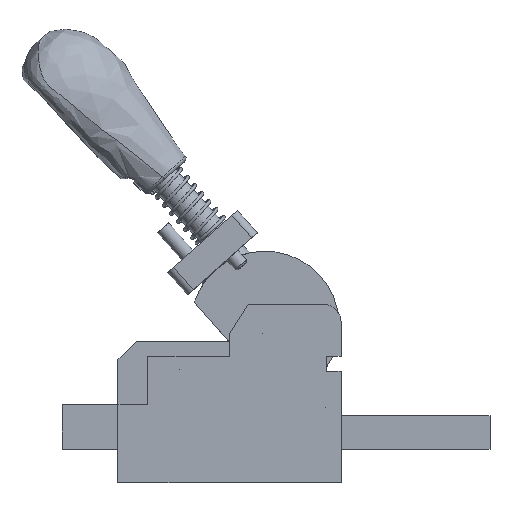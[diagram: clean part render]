
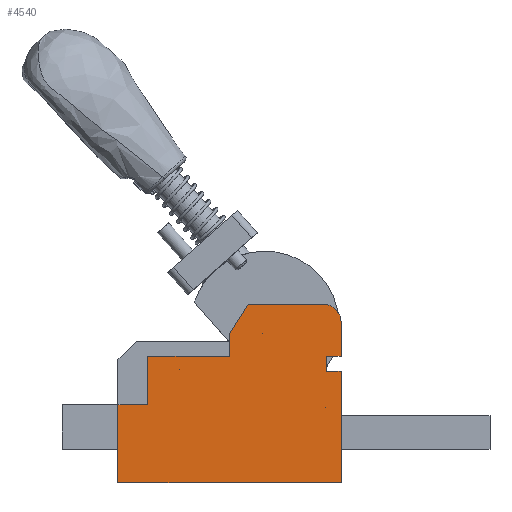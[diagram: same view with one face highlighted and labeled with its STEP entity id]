
A CAD part, top view. The second image highlights one B-rep face of the part: STEP entity #4540.
In plain terms, the highlighted planar face has unit normal (0, 0, 1).
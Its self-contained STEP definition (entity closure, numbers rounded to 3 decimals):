
#296=FACE_BOUND('',#848,.T.);
#297=FACE_BOUND('',#849,.T.);
#298=FACE_BOUND('',#850,.T.);
#378=CIRCLE('',#5027,5.);
#379=CIRCLE('',#5028,0.005);
#380=CIRCLE('',#5029,0.005);
#381=CIRCLE('',#5030,0.005);
#586=FACE_OUTER_BOUND('',#847,.T.);
#847=EDGE_LOOP('',(#3194,#3195,#3196,#3197,#3198,#3199,#3200,#3201,#3202,
#3203,#3204,#3205,#3206,#3207));
#848=EDGE_LOOP('',(#3208));
#849=EDGE_LOOP('',(#3209));
#850=EDGE_LOOP('',(#3210));
#1122=LINE('',#6743,#1512);
#1130=LINE('',#6759,#1520);
#1132=LINE('',#6764,#1522);
#1162=LINE('',#6839,#1552);
#1165=LINE('',#6844,#1555);
#1170=LINE('',#6880,#1560);
#1173=LINE('',#6885,#1563);
#1185=LINE('',#6926,#1575);
#1189=LINE('',#6934,#1579);
#1198=LINE('',#6961,#1588);
#1199=LINE('',#6963,#1589);
#1200=LINE('',#6965,#1590);
#1201=LINE('',#6966,#1591);
#1512=VECTOR('',#5432,10.);
#1520=VECTOR('',#5444,10.);
#1522=VECTOR('',#5448,10.);
#1552=VECTOR('',#5504,10.);
#1555=VECTOR('',#5509,10.);
#1560=VECTOR('',#5548,10.);
#1563=VECTOR('',#5553,10.);
#1575=VECTOR('',#5595,10.);
#1579=VECTOR('',#5603,10.);
#1588=VECTOR('',#5630,10.);
#1589=VECTOR('',#5631,10.);
#1590=VECTOR('',#5632,10.);
#1591=VECTOR('',#5633,10.);
#1902=VERTEX_POINT('',#6740);
#1903=VERTEX_POINT('',#6742);
#1909=VERTEX_POINT('',#6757);
#1911=VERTEX_POINT('',#6763);
#1943=VERTEX_POINT('',#6838);
#1944=VERTEX_POINT('',#6842);
#1957=VERTEX_POINT('',#6878);
#1958=VERTEX_POINT('',#6879);
#1959=VERTEX_POINT('',#6884);
#1973=VERTEX_POINT('',#6924);
#1975=VERTEX_POINT('',#6932);
#1984=VERTEX_POINT('',#6960);
#1985=VERTEX_POINT('',#6962);
#1986=VERTEX_POINT('',#6964);
#1987=VERTEX_POINT('',#6967);
#1988=VERTEX_POINT('',#6969);
#1989=VERTEX_POINT('',#6971);
#2356=EDGE_CURVE('',#1903,#1902,#1122,.T.);
#2364=EDGE_CURVE('',#1902,#1909,#1130,.T.);
#2366=EDGE_CURVE('',#1911,#1903,#1132,.T.);
#2404=EDGE_CURVE('',#1911,#1943,#1162,.T.);
#2407=EDGE_CURVE('',#1944,#1909,#1165,.T.);
#2424=EDGE_CURVE('',#1957,#1958,#1170,.T.);
#2427=EDGE_CURVE('',#1958,#1959,#1173,.T.);
#2447=EDGE_CURVE('',#1957,#1973,#1185,.T.);
#2451=EDGE_CURVE('',#1973,#1975,#1189,.T.);
#2464=EDGE_CURVE('',#1959,#1944,#378,.T.);
#2465=EDGE_CURVE('',#1975,#1984,#1198,.T.);
#2466=EDGE_CURVE('',#1984,#1985,#1199,.T.);
#2467=EDGE_CURVE('',#1986,#1985,#1200,.T.);
#2468=EDGE_CURVE('',#1943,#1986,#1201,.T.);
#2469=EDGE_CURVE('',#1987,#1987,#379,.T.);
#2470=EDGE_CURVE('',#1988,#1988,#380,.T.);
#2471=EDGE_CURVE('',#1989,#1989,#381,.T.);
#3194=ORIENTED_EDGE('',*,*,#2364,.T.);
#3195=ORIENTED_EDGE('',*,*,#2407,.F.);
#3196=ORIENTED_EDGE('',*,*,#2464,.F.);
#3197=ORIENTED_EDGE('',*,*,#2427,.F.);
#3198=ORIENTED_EDGE('',*,*,#2424,.F.);
#3199=ORIENTED_EDGE('',*,*,#2447,.T.);
#3200=ORIENTED_EDGE('',*,*,#2451,.T.);
#3201=ORIENTED_EDGE('',*,*,#2465,.T.);
#3202=ORIENTED_EDGE('',*,*,#2466,.T.);
#3203=ORIENTED_EDGE('',*,*,#2467,.F.);
#3204=ORIENTED_EDGE('',*,*,#2468,.F.);
#3205=ORIENTED_EDGE('',*,*,#2404,.F.);
#3206=ORIENTED_EDGE('',*,*,#2366,.T.);
#3207=ORIENTED_EDGE('',*,*,#2356,.T.);
#3208=ORIENTED_EDGE('',*,*,#2469,.T.);
#3209=ORIENTED_EDGE('',*,*,#2470,.T.);
#3210=ORIENTED_EDGE('',*,*,#2471,.T.);
#4399=PLANE('',#5026);
#4540=ADVANCED_FACE('',(#586,#296,#297,#298),#4399,.T.);
#5026=AXIS2_PLACEMENT_3D('',#6958,#5626,#5627);
#5027=AXIS2_PLACEMENT_3D('',#6959,#5628,#5629);
#5028=AXIS2_PLACEMENT_3D('',#6968,#5634,#5635);
#5029=AXIS2_PLACEMENT_3D('',#6970,#5636,#5637);
#5030=AXIS2_PLACEMENT_3D('',#6972,#5638,#5639);
#5432=DIRECTION('',(0.,1.,0.));
#5444=DIRECTION('',(1.,0.,0.));
#5448=DIRECTION('',(-1.,0.,0.));
#5504=DIRECTION('',(0.,-1.,0.));
#5509=DIRECTION('',(0.,-1.,0.));
#5548=DIRECTION('',(0.53,0.848,0.));
#5553=DIRECTION('',(1.,0.,0.));
#5595=DIRECTION('',(0.,-1.,0.));
#5603=DIRECTION('',(-1.,0.,0.));
#5626=DIRECTION('center_axis',(0.,0.,1.));
#5627=DIRECTION('ref_axis',(1.,0.,0.));
#5628=DIRECTION('center_axis',(0.,0.,-1.));
#5629=DIRECTION('ref_axis',(-1.,0.,0.));
#5630=DIRECTION('',(0.,-1.,0.));
#5631=DIRECTION('',(-1.,0.,0.));
#5632=DIRECTION('',(0.,1.,0.));
#5633=DIRECTION('',(-1.,0.,0.));
#5634=DIRECTION('center_axis',(0.,0.,-1.));
#5635=DIRECTION('ref_axis',(-1.,0.,0.));
#5636=DIRECTION('center_axis',(0.,0.,-1.));
#5637=DIRECTION('ref_axis',(-1.,0.,0.));
#5638=DIRECTION('center_axis',(0.,0.,-1.));
#5639=DIRECTION('ref_axis',(-1.,0.,0.));
#6740=CARTESIAN_POINT('',(76.038,43.112,24.));
#6742=CARTESIAN_POINT('',(76.038,39.112,24.));
#6743=CARTESIAN_POINT('',(76.038,36.295,24.));
#6757=CARTESIAN_POINT('',(80.038,43.112,24.));
#6759=CARTESIAN_POINT('',(65.735,43.112,24.));
#6763=CARTESIAN_POINT('',(80.038,39.112,24.));
#6764=CARTESIAN_POINT('',(63.735,39.112,24.));
#6838=CARTESIAN_POINT('',(80.038,9.112,24.));
#6839=CARTESIAN_POINT('',(80.038,52.112,24.));
#6842=CARTESIAN_POINT('',(80.038,52.112,24.));
#6844=CARTESIAN_POINT('',(80.038,52.112,24.));
#6878=CARTESIAN_POINT('',(50.038,49.112,24.));
#6879=CARTESIAN_POINT('',(55.038,57.112,24.));
#6880=CARTESIAN_POINT('',(47.521,45.085,24.));
#6884=CARTESIAN_POINT('',(75.038,57.112,24.));
#6885=CARTESIAN_POINT('',(35.142,57.112,24.));
#6924=CARTESIAN_POINT('',(50.038,43.112,24.));
#6926=CARTESIAN_POINT('',(50.038,37.295,24.));
#6932=CARTESIAN_POINT('',(28.038,43.112,24.));
#6934=CARTESIAN_POINT('',(39.735,43.112,24.));
#6958=CARTESIAN_POINT('Origin',(51.433,31.477,24.));
#6959=CARTESIAN_POINT('Origin',(75.038,52.112,24.));
#6960=CARTESIAN_POINT('',(28.038,30.112,24.));
#6961=CARTESIAN_POINT('',(28.038,30.795,24.));
#6962=CARTESIAN_POINT('',(20.038,30.112,24.));
#6963=CARTESIAN_POINT('',(35.735,30.112,24.));
#6964=CARTESIAN_POINT('',(20.038,9.112,24.));
#6965=CARTESIAN_POINT('',(20.038,9.112,24.));
#6966=CARTESIAN_POINT('',(80.038,9.112,24.));
#6967=CARTESIAN_POINT('',(58.843,49.112,24.));
#6968=CARTESIAN_POINT('Origin',(58.838,49.112,24.));
#6969=CARTESIAN_POINT('',(75.843,29.212,24.));
#6970=CARTESIAN_POINT('Origin',(75.838,29.212,24.));
#6971=CARTESIAN_POINT('',(36.643,39.612,24.));
#6972=CARTESIAN_POINT('Origin',(36.638,39.612,24.));
